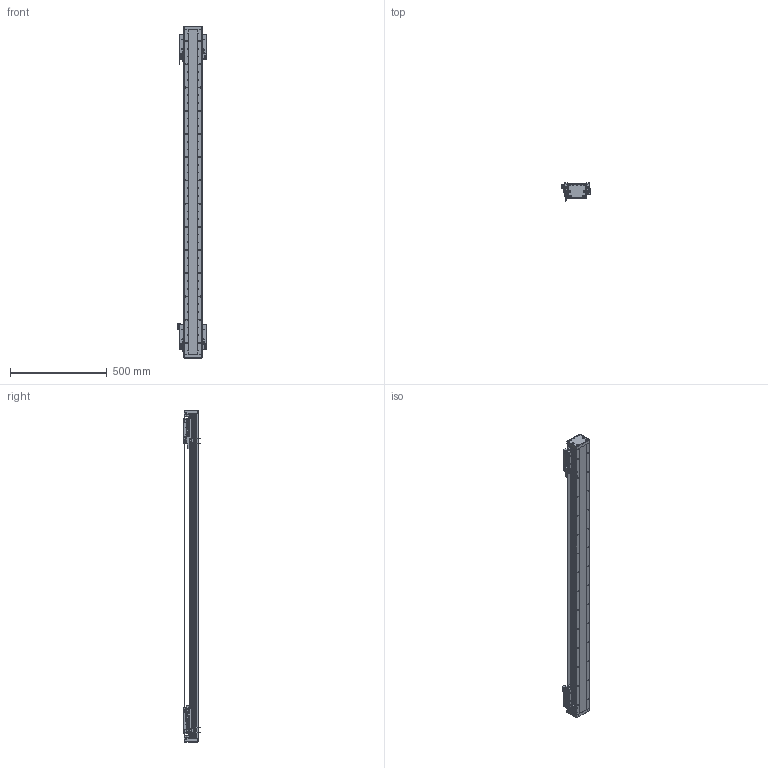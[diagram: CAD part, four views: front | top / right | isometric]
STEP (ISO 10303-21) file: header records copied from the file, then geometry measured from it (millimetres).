
FILE_DESCRIPTION (( 'STEP AP203' ), '1' );
FILE_NAME ('DA-B95-2-B15-T1340-C010-0.2 直线电机.STEP', '2023-05-06T06:30:42', ( '微软用户' ), ( '微软中国' ), 'SwSTEP 2.0', 'SolidWorks 2019', '' );
FILE_SCHEMA (( 'CONFIG_CONTROL_DESIGN' ));
Length unit declared in the file: millimetre
Products named in the file (34): 复件 DA95-B15-YB-A-00 压板A^66245-BU95-V 滚珠滑台; 复件 复件 18252-0001-002-00 钢带垫块^DA-A95-B15-T-C010-0.2-N 直线电机; 复件 DKW-KGZ-ZJ-00 中间光电开关支架^DA-A95-B15-T-C010-0.2-N 直线电机; 复件 六角薄螺母 M3^DA-A95-B15-T-C010-0.2-N 直线电机_GB_FASTENER_NUT_STNAB M3-C; B15 XD-U-02L ｴﾅﾕ､ｳﾟ^DA-A95-B15-T-C010-0.2-N ﾖｱﾏﾟｵ扈銈XD-U-02L; DA95-HXJ-00 缓冲橡胶^DA-A95-B15-T-C010-0.2-N 直线电机; 复件 66245-BU95-HT-V-01 滑动台板^66245-BU95-V-00 一体化滑动台板; 66245-BU95-V-00 珨极趙賑雄怢啣; 复件 复件 18252-0001-004-00 钢带端盖^DA-A95-B15-T-C010-0.2-N 直线电机; 葩璃 BKMA01-W060-TRL^DA-A95-B15-T-C010-0.2-N 眻盄萇儂; LMDK-2-R001-V5-L02-C1-F00，0.2M 读数头^DA-A95-B15-T-C010-0.2-N 直线电机_DMA-010-0.2; 葩璃 DA95-B15-DP--B-00 菜えB^66245-BU95-V 幗紩賑怢; 葩璃 BKM015-W060-C1-TP-DA-0.2^DA-A95-B15-T-C010-0.2-N 眻盄萇儂; 复件 DA95-DB-00  挡板^66245-BU95-V 滚珠滑台; 复件 DA95-B15-YB-B-00 压板B^66245-BU95-V 滚珠滑台; 葩璃 DA95-GT-T-00^IU-BU95-L 菁釱絳寢_DA95; IU-BU95-L 菁釱絳寢; IU-BU95-L-00 菁釱_L1680; 66245-BU95-V 幗紩賑怢; 葩璃 PM-Y45^DA-A95-B15-T-C010-0.2-N 眻盄萇儂; 葩璃 DA95-B15-DP-A-00 菜えA^66245-BU95-V 幗紩賑怢; DA-B95-2-B15-T1340-C010-0.2 眻盄萇儂; 复件 DA95-MFP-01 密封片^66245-BU95-V 滚珠滑台; 复件 DA95-HK-GT-00 滑块钢轨^66245-BU95-V-00 一体化滑动台板; 复件 DA95-B15 钢带盖板^DA-A95-B15-T-C010-0.2-N 直线电机; 复件 复件 18252-0001-003-00 钢带拉块^DA-A95-B15-T-C010-0.2-N 直线电机; 复件 纯铜油杯 6x6mm^66245-BU95-V 滚珠滑台; DA-A95-GYP-00 光电感应片^DA-A95-B15-T-C010-0.2-N 直线电机; 复件 DA95-DK-00 挡块^66245-BU95-V 滚珠滑台; 复件 DKW-HXJ-JY-00 缓冲橡胶^DA-A95-B15-T-C010-0.2-N 直线电机; PM-T45 光电开关^DA-A95-B15-T-C010-0.2-N 直线电机; 复件 DKW-GYP-ZJ-00 中间光电感应片^DA-A95-B15-T-C010-0.2-N 直线电机
Assembly tree (80 placements, depth 4):
  DA-B95-2-B15-T1340-C010-0.2 眻盄萇儂
    IU-BU95-L 菁釱絳寢
      IU-BU95-L-00 菁釱_L1680
      葩璃 DA95-GT-T-00^IU-BU95-L 菁釱絳寢_DA95  x2
    66245-BU95-V 幗紩賑怢
      66245-BU95-V-00 珨极趙賑雄怢啣
        复件 66245-BU95-HT-V-01 滑动台板^66245-BU95-V-00 一体化滑动台板
        复件 DA95-HK-GT-00 滑块钢轨^66245-BU95-V-00 一体化滑动台板  x2
      葩璃 DA95-B15-DP-A-00 菜えA^66245-BU95-V 幗紩賑怢
      复件 DA95-B15-YB-A-00 压板A^66245-BU95-V 滚珠滑台
      复件 DA95-B15-YB-B-00 压板B^66245-BU95-V 滚珠滑台
      复件 DA95-DB-00  挡板^66245-BU95-V 滚珠滑台  x4
      复件 DA95-DK-00 挡块^66245-BU95-V 滚珠滑台  x2
      复件 DA95-MFP-01 密封片^66245-BU95-V 滚珠滑台  x4
      复件 纯铜油杯 6x6mm^66245-BU95-V 滚珠滑台  x2
      葩璃 DA95-B15-DP--B-00 菜えB^66245-BU95-V 幗紩賑怢
    66245-BU95-V 幗紩賑怢
      66245-BU95-V-00 珨极趙賑雄怢啣
        复件 66245-BU95-HT-V-01 滑动台板^66245-BU95-V-00 一体化滑动台板
        复件 DA95-HK-GT-00 滑块钢轨^66245-BU95-V-00 一体化滑动台板  x2
      葩璃 DA95-B15-DP-A-00 菜えA^66245-BU95-V 幗紩賑怢
      复件 DA95-B15-YB-A-00 压板A^66245-BU95-V 滚珠滑台
      复件 DA95-B15-YB-B-00 压板B^66245-BU95-V 滚珠滑台
      复件 DA95-DB-00  挡板^66245-BU95-V 滚珠滑台  x4
      复件 DA95-DK-00 挡块^66245-BU95-V 滚珠滑台  x2
      复件 DA95-MFP-01 密封片^66245-BU95-V 滚珠滑台  x4
      复件 纯铜油杯 6x6mm^66245-BU95-V 滚珠滑台  x2
      葩璃 DA95-B15-DP--B-00 菜えB^66245-BU95-V 幗紩賑怢
    DA-A95-GYP-00 光电感应片^DA-A95-B15-T-C010-0.2-N 直线电机  x2
    LMDK-2-R001-V5-L02-C1-F00，0.2M 读数头^DA-A95-B15-T-C010-0.2-N 直线电机_DMA-010-0.2  x2
    复件 DKW-KGZ-ZJ-00 中间光电开关支架^DA-A95-B15-T-C010-0.2-N 直线电机
    葩璃 PM-Y45^DA-A95-B15-T-C010-0.2-N 眻盄萇儂
    复件 DKW-GYP-ZJ-00 中间光电感应片^DA-A95-B15-T-C010-0.2-N 直线电机
    葩璃 BKM015-W060-C1-TP-DA-0.2^DA-A95-B15-T-C010-0.2-N 眻盄萇儂  x2
    复件 DKW-HXJ-JY-00 缓冲橡胶^DA-A95-B15-T-C010-0.2-N 直线电机  x2
    PM-T45 光电开关^DA-A95-B15-T-C010-0.2-N 直线电机  x4
    B15 XD-U-02L ｴﾅﾕ､ｳﾟ^DA-A95-B15-T-C010-0.2-N ﾖｱﾏﾟｵ扈銈XD-U-02L
    复件 复件 18252-0001-003-00 钢带拉块^DA-A95-B15-T-C010-0.2-N 直线电机  x2
    复件 复件 18252-0001-002-00 钢带垫块^DA-A95-B15-T-C010-0.2-N 直线电机  x2
    复件 复件 18252-0001-004-00 钢带端盖^DA-A95-B15-T-C010-0.2-N 直线电机  x2
    复件 DA95-B15 钢带盖板^DA-A95-B15-T-C010-0.2-N 直线电机
    DA95-HXJ-00 缓冲橡胶^DA-A95-B15-T-C010-0.2-N 直线电机  x4
    葩璃 BKMA01-W060-TRL^DA-A95-B15-T-C010-0.2-N 眻盄萇儂
    复件 六角薄螺母 M3^DA-A95-B15-T-C010-0.2-N 直线电机_GB_FASTENER_NUT_STNAB M3-C  x6
Bounding box: 145.4 x 90.2 x 1716 mm (x, y, z)
Volume: 5999174.1 mm3; surface area: 1950008.5 mm2
Topology: 75 solids, 93 shells, 3840 faces, 10492 edges, 6607 vertices
Faces by surface type: cylinder 1877, plane 1431, cone 464, torus 64, sphere 4
Entity records: 83662 total; most frequent: CARTESIAN_POINT 20228, ORIENTED_EDGE 12342, DIRECTION 12306, EDGE_CURVE 6171, AXIS2_PLACEMENT_3D 4645, VERTEX_POINT 4009, VECTOR 3016, LINE 3016
